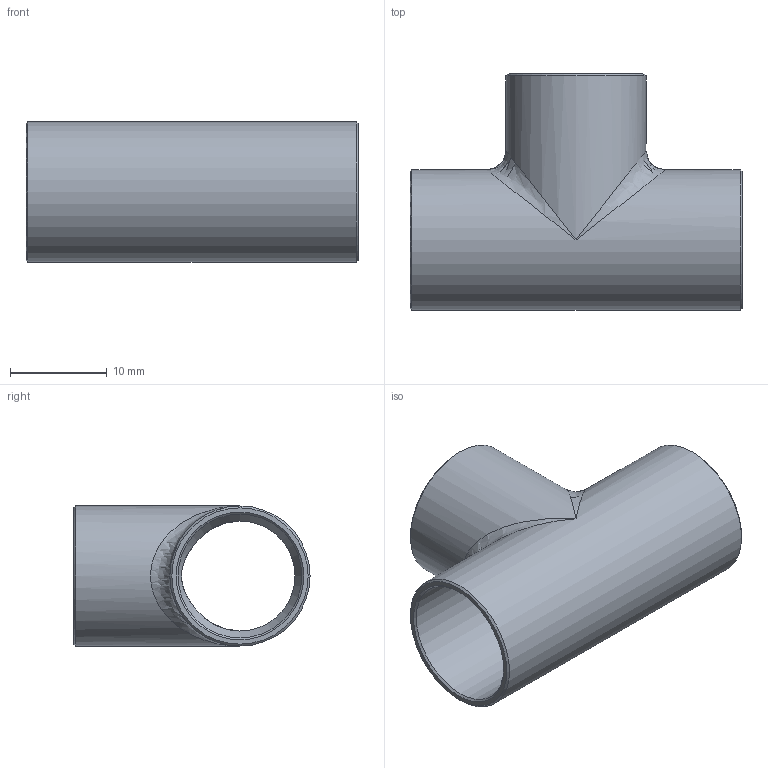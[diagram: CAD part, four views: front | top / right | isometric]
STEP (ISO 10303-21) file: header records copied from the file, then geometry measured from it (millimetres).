
FILE_DESCRIPTION((''),'2;1');
FILE_NAME('G:\SANHA-Ternat\Technik\Management\Bouwmaten + markeringen\z-maattekeningen 3D\29000s\2913012_3d.stp','2017-07-26T15:33:03',('vdvijverd'),(''),'Autodesk Inventor 2009','Autodesk Inventor 2009','');
FILE_SCHEMA(('AUTOMOTIVE_DESIGN { 1 0 10303 214 1 1 1 1 }'));
Length unit declared in the file: millimetre
Products named in the file (1): 2913012_3d
Bounding box: 34.4 x 24.46 x 14.52 mm (x, y, z)
Volume: 1936.1 mm3; surface area: 3724.6 mm2
Topology: 1 solids, 1 shells, 24 faces, 70 edges, 39 vertices
Faces by surface type: cone 8, cylinder 7, bspline 6, plane 3
Full cylindrical faces by diameter (mm): 12.82 x2, 14.52 x2
Entity records: 1402 total; most frequent: CARTESIAN_POINT 877, DIRECTION 112, ORIENTED_EDGE 82, AXIS2_PLACEMENT_3D 56, EDGE_LOOP 42, EDGE_CURVE 41, VERTEX_POINT 33, FACE_OUTER_BOUND 24
